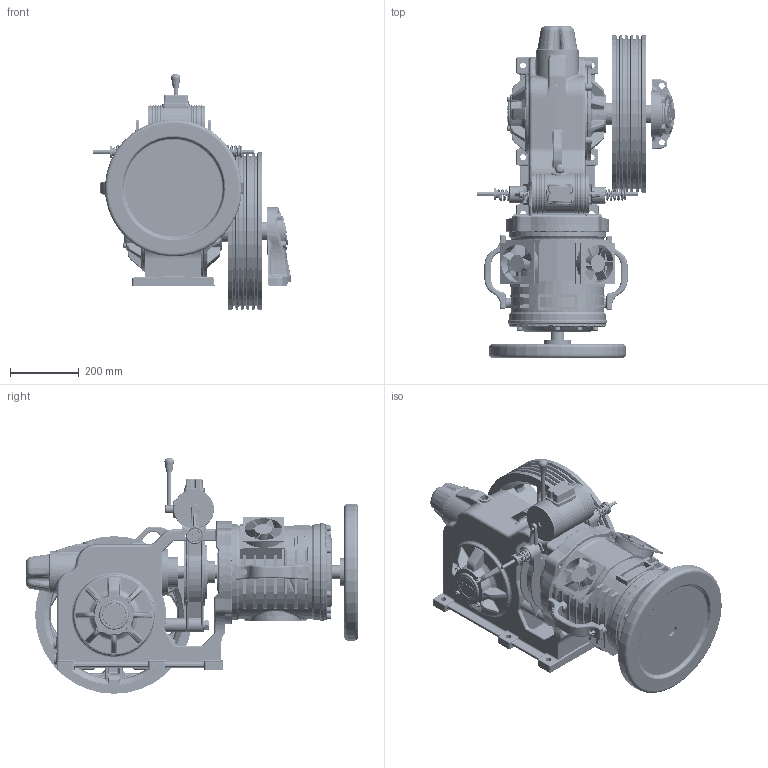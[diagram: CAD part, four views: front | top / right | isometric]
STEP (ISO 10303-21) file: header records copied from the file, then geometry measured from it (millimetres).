
FILE_DESCRIPTION (( 'STEP AP214' ), '1' );
FILE_NAME ('SMC5504021.STEP', '2026-02-02T11:32:31', ( '' ), ( '' ), 'SwSTEP 2.0', 'SolidWorks 2025', '' );
FILE_SCHEMA (( 'AUTOMOTIVE_DESIGN' ));
Length unit declared in the file: millimetre
Products named in the file (1): SMC5504021
Bounding box: 576.66 x 968.88 x 687.5 mm (x, y, z)
Volume: 61021396.8 mm3; surface area: 3842421.8 mm2
Topology: 34 solids, 71 shells, 5923 faces, 14057 edges, 8396 vertices
Faces by surface type: bspline 1702, cylinder 1648, plane 1513, cone 432, torus 418, sphere 210
Entity records: 246947 total; most frequent: CARTESIAN_POINT 122399, ORIENTED_EDGE 27958, DIRECTION 23500, EDGE_CURVE 13979, AXIS2_PLACEMENT_3D 9649, VERTEX_POINT 8388, EDGE_LOOP 6345, ADVANCED_FACE 5923
